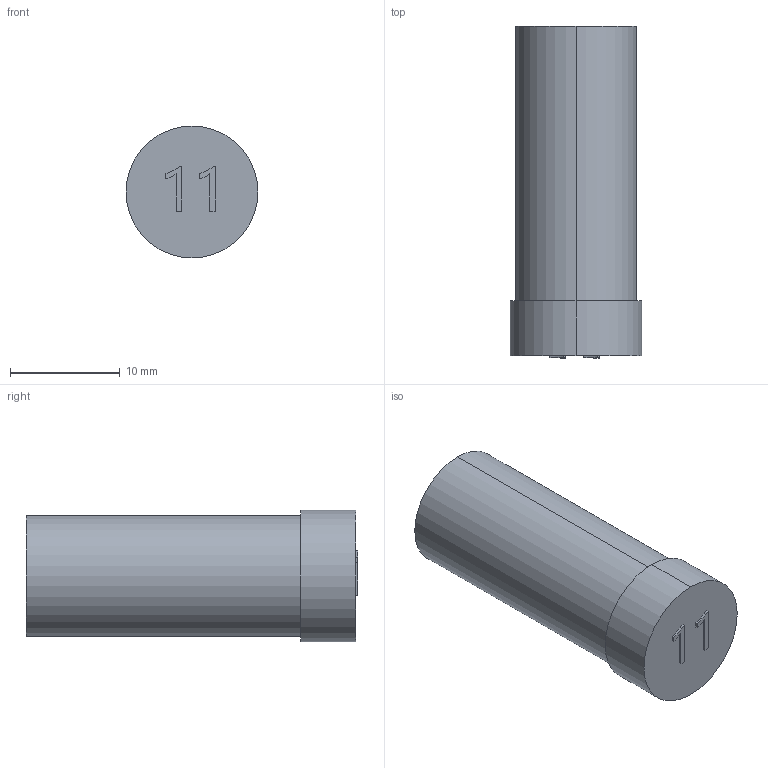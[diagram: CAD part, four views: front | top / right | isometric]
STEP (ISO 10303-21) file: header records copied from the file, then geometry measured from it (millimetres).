
FILE_DESCRIPTION (( 'STEP AP203' ), '1' );
FILE_NAME ('042893 ST11.STEP', '2023-11-23T00:52:51', ( '' ), ( '' ), 'SwSTEP 2.0', 'SolidWorks 2016', '' );
FILE_SCHEMA (( 'CONFIG_CONTROL_DESIGN' ));
Length unit declared in the file: millimetre
Products named in the file (1): 042893 ST11
Bounding box: 12 x 30.2 x 12 mm (x, y, z)
Volume: 2942.3 mm3; surface area: 1283 mm2
Topology: 1 solids, 1 shells, 23 faces, 54 edges, 36 vertices
Faces by surface type: plane 15, cylinder 4, bspline 4
Entity records: 869 total; most frequent: CARTESIAN_POINT 278, ORIENTED_EDGE 108, DIRECTION 94, EDGE_CURVE 54, LINE 38, VECTOR 38, VERTEX_POINT 36, AXIS2_PLACEMENT_3D 28
